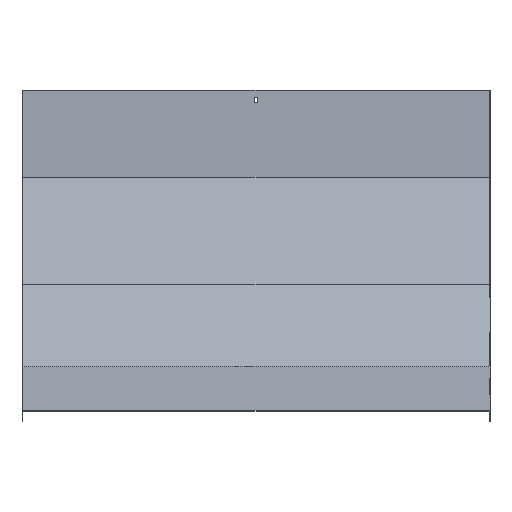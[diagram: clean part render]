
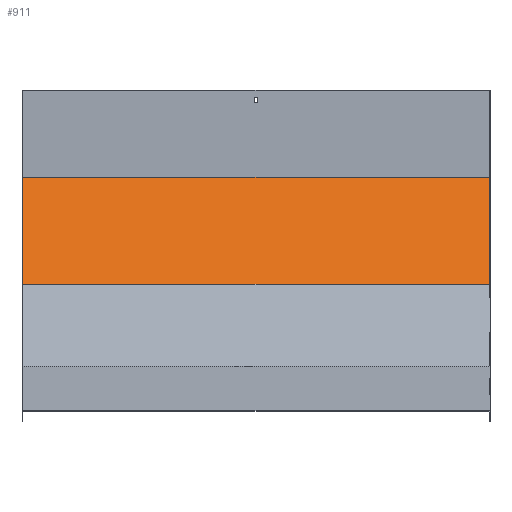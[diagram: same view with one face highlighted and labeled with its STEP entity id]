
A CAD part, top view. The second image highlights one B-rep face of the part: STEP entity #911.
In plain terms, the highlighted planar face has unit normal (0, 0.383, 0.924).
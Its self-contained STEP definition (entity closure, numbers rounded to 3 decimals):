
#5 = EDGE_CURVE ( 'NONE', #216, #741, #778, .T. ) ;
#89 = VERTEX_POINT ( 'NONE', #947 ) ;
#100 = LINE ( 'NONE', #609, #357 ) ;
#103 = DIRECTION ( 'NONE',  ( -1., 0., 0. ) ) ;
#132 = VECTOR ( 'NONE', #508, 1000. ) ;
#158 = PLANE ( 'NONE',  #587 ) ;
#162 = EDGE_LOOP ( 'NONE', ( #975, #339, #452, #753 ) ) ;
#216 = VERTEX_POINT ( 'NONE', #796 ) ;
#261 = DIRECTION ( 'NONE',  ( 0., 0.924, -0.383 ) ) ;
#339 = ORIENTED_EDGE ( 'NONE', *, *, #440, .F. ) ;
#350 = VERTEX_POINT ( 'NONE', #1078 ) ;
#357 = VECTOR ( 'NONE', #261, 1000. ) ;
#361 = CARTESIAN_POINT ( 'NONE',  ( 401.5, 400.116, -549.916 ) ) ;
#402 = DIRECTION ( 'NONE',  ( 0., 0.383, 0.924 ) ) ;
#440 = EDGE_CURVE ( 'NONE', #216, #350, #874, .T. ) ;
#452 = ORIENTED_EDGE ( 'NONE', *, *, #5, .T. ) ;
#479 = VECTOR ( 'NONE', #691, 1000. ) ;
#508 = DIRECTION ( 'NONE',  ( -1., 0., 0. ) ) ;
#512 = CARTESIAN_POINT ( 'NONE',  ( 401.5, 400.116, -549.916 ) ) ;
#587 = AXIS2_PLACEMENT_3D ( 'NONE', #845, #402, #752 ) ;
#607 = CARTESIAN_POINT ( 'NONE',  ( 401.5, 216.541, -473.877 ) ) ;
#609 = CARTESIAN_POINT ( 'NONE',  ( -401.5, 216.541, -473.877 ) ) ;
#691 = DIRECTION ( 'NONE',  ( 0., 0.924, -0.383 ) ) ;
#704 = VECTOR ( 'NONE', #103, 1000. ) ;
#741 = VERTEX_POINT ( 'NONE', #361 ) ;
#752 = DIRECTION ( 'NONE',  ( 0., -0.924, 0.383 ) ) ;
#753 = ORIENTED_EDGE ( 'NONE', *, *, #988, .T. ) ;
#778 = LINE ( 'NONE', #1031, #479 ) ;
#796 = CARTESIAN_POINT ( 'NONE',  ( 401.5, 216.541, -473.877 ) ) ;
#845 = CARTESIAN_POINT ( 'NONE',  ( 401.5, 216.541, -473.877 ) ) ;
#874 = LINE ( 'NONE', #607, #704 ) ;
#911 = ADVANCED_FACE ( 'NONE', ( #933 ), #158, .T. ) ;
#921 = EDGE_CURVE ( 'NONE', #350, #89, #100, .T. ) ;
#933 = FACE_OUTER_BOUND ( 'NONE', #162, .T. ) ;
#947 = CARTESIAN_POINT ( 'NONE',  ( -401.5, 400.116, -549.916 ) ) ;
#950 = LINE ( 'NONE', #512, #132 ) ;
#975 = ORIENTED_EDGE ( 'NONE', *, *, #921, .F. ) ;
#988 = EDGE_CURVE ( 'NONE', #741, #89, #950, .T. ) ;
#1031 = CARTESIAN_POINT ( 'NONE',  ( 401.5, 216.541, -473.877 ) ) ;
#1078 = CARTESIAN_POINT ( 'NONE',  ( -401.5, 216.541, -473.877 ) ) ;
